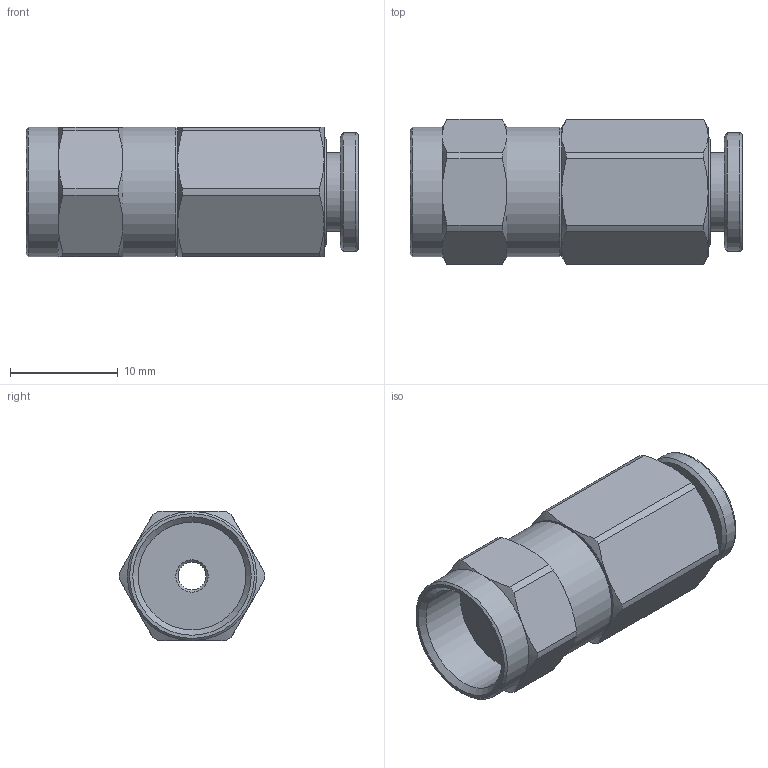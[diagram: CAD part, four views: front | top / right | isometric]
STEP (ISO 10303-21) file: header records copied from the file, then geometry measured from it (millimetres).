
FILE_DESCRIPTION(('STEP AP214'),'1');
FILE_NAME('BVP-10-B31.stp','2026-02-02T07:48:26',(' '),(' '),'Spatial InterOp 3D',' ',' ');
FILE_SCHEMA(('AUTOMOTIVE_DESIGN { 1 0 10303 214 1 1 1 1 }'));
Length unit declared in the file: millimetre
Products named in the file (7): BVP-10-B30; 2; 1; 3; SQC0604:1; SQC0603:1; SQC0602:1
Assembly tree (6 placements, depth 3):
  BVP-10-B30
    2
    1
    3
      SQC0604:1
      SQC0603:1
      SQC0602:1
Bounding box: 30.85 x 13.5 x 12 mm (x, y, z)
Volume: 2181.9 mm3; surface area: 3434.2 mm2
Topology: 5 solids, 5 shells, 330 faces, 916 edges, 609 vertices
Faces by surface type: cone 113, cylinder 108, plane 83, torus 26
Full cylindrical faces by diameter (mm): 2.6 x2, 4.7 x1, 6.25 x1, 6.4 x1, 7 x1, 7.3 x1, 7.5 x1, 7.75 x2, 7.8 x1, 8.1 x2, 9.1 x1, 9.2 x1, 10 x2, 10.1 x1, 10.25 x1, 10.8 x1, 10.9 x1, 11 x1, 12 x2
Entity records: 18071 total; most frequent: CARTESIAN_POINT 3616, ORIENTED_EDGE 1710, DIRECTION 1377, STYLED_ITEM 1146, PRESENTATION_STYLE_ASSIGNMENT 1146, COLOUR_RGB 1146, EDGE_CURVE 855, CURVE_STYLE 812
